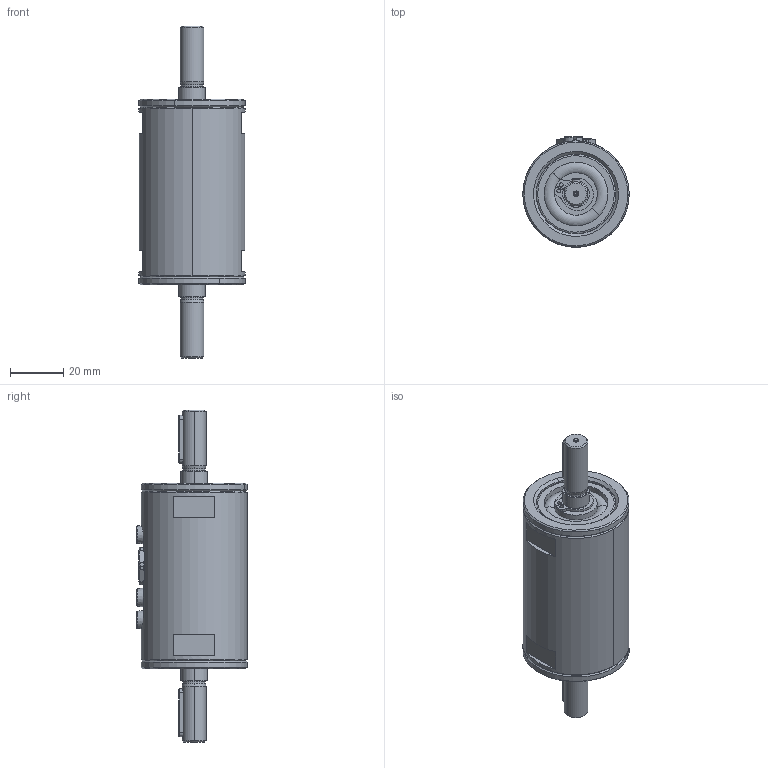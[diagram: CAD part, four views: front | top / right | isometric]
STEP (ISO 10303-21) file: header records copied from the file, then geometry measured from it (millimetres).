
FILE_DESCRIPTION (( 'STEP AP203' ), '1' );
FILE_NAME ('400006-ATS003-2,5Nm-6mm-Rund.STEP', '2017-02-20T10:17:00', ( '' ), ( '' ), 'SwSTEP 2.0', 'SolidWorks 2016', '' );
FILE_SCHEMA (( 'CONFIG_CONTROL_DESIGN' ));
Length unit declared in the file: millimetre
Products named in the file (19): 400006-ATS021-PCB12_mit_Stecker_Welle 6mm; 400006-ATE002-PCB12-Board; 400006-ATS003-2,5Nm-6mm-Rund; 400006-ATE001_Kabel_Welle 6mm; DIN 625 - 6200 - 8,SI,NC,8_68_DIN 625 - 6200 - Full,SI,NC,Full_68; 400006-ATM004_Rohrgehäuse-40mm; DIN 988-22x30x0.5_DIN 988-22x30x0.5; ISO 1207 - M4 x 4 --- 4S_ISO 1207 - M4 x 4 --- 4S; 400006-ATM005_Lagerdeckel-10mm; 400006-ATM002-Mutter-Binder-Stecker; ISO 4762 M3 x 5 --- 5S_DIN 912 M3 x 5 --- 5S; Passfeder_Parallel key A3 x 3 x 18 DIN 6885; 400006-ATM017_Elektronikhalter-6mm; Circlip DIN 471 - 10 x 1_Circlip DIN 471 - 10 x 1; 400006-ATM015_Welle 6mm-Rund; 400006-ATE009-Binder-712-0416-90-05; ISO 1207 - M4 x 5 --- 5S_ISO 1207 - M4 x 5 --- 5S; 999999-ATN087-Tellerfeder-29,7x17,3_Standard; 999999-ATE043_OTS-coilboard_mit Spulen_Standard
Assembly tree (28 placements, depth 3):
  400006-ATS003-2,5Nm-6mm-Rund
    400006-ATM015_Welle 6mm-Rund
    400006-ATM017_Elektronikhalter-6mm
    400006-ATS021-PCB12_mit_Stecker_Welle 6mm
      400006-ATE002-PCB12-Board
      400006-ATE009-Binder-712-0416-90-05
      999999-ATE043_OTS-coilboard_mit Spulen_Standard  x2
      400006-ATE001_Kabel_Welle 6mm  x2
    ISO 4762 M3 x 5 --- 5S_DIN 912 M3 x 5 --- 5S  x4
    400006-ATM004_Rohrgehäuse-40mm
    400006-ATM005_Lagerdeckel-10mm  x2
    999999-ATN087-Tellerfeder-29,7x17,3_Standard
    Circlip DIN 471 - 10 x 1_Circlip DIN 471 - 10 x 1  x2
    ISO 1207 - M4 x 4 --- 4S_ISO 1207 - M4 x 4 --- 4S
    ISO 1207 - M4 x 5 --- 5S_ISO 1207 - M4 x 5 --- 5S  x2
    DIN 625 - 6200 - 8,SI,NC,8_68_DIN 625 - 6200 - Full,SI,NC,Full_68  x2
    DIN 988-22x30x0.5_DIN 988-22x30x0.5
    Passfeder_Parallel key A3 x 3 x 18 DIN 6885  x2
    400006-ATM002-Mutter-Binder-Stecker
Bounding box: 40 x 41.6 x 125 mm (x, y, z)
Volume: 55982.3 mm3; surface area: 47909.2 mm2
Topology: 31 solids, 31 shells, 1276 faces, 3149 edges, 1977 vertices
Faces by surface type: cylinder 499, plane 381, cone 300, torus 82, bspline 14
Entity records: 28506 total; most frequent: CARTESIAN_POINT 6305, DIRECTION 4407, ORIENTED_EDGE 4018, EDGE_CURVE 2009, AXIS2_PLACEMENT_3D 1770, VERTEX_POINT 1280, EDGE_LOOP 951, CIRCLE 929
